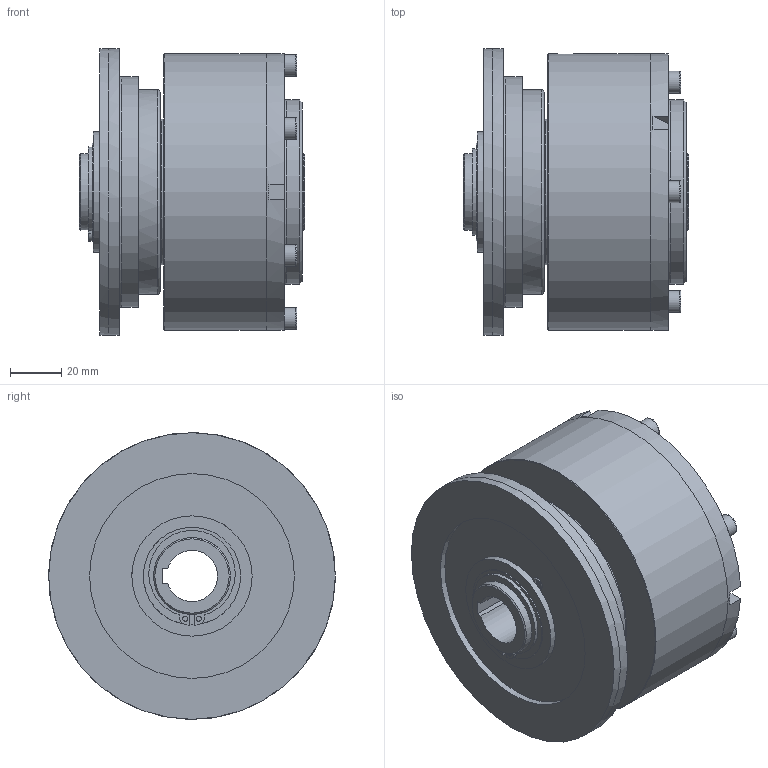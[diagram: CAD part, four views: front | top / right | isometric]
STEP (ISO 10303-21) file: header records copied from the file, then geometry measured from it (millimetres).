
FILE_DESCRIPTION(/* description */ (''),/* implementation_level */ '2;1');
FILE_NAME(/* name */ 'X:\INVENTOR\DISEGNI\03_Friz_Oleod_Pneum_Cil_Stat\03_53 MP-N\03_53_00_01 MP-N00\03_53_00_01 MP-N00@STEP.stp',/* time_stamp */ '2023-02-06T10:00:11+01:00',/* author */ ('alessio'),/* organization */ (''),/* preprocessor_version */ 'ST-DEVELOPER v18.1',/* originating_system */ 'Autodesk Inventor 2021',/* authorisation */ '');
FILE_SCHEMA (('AUTOMOTIVE_DESIGN { 1 0 10303 214 3 1 1 }'));
Products named in the file (1): 03_53_00_01 MP-N00
Bounding box: 88 x 112 x 112 mm (x, y, z)
Volume: 505971.1 mm3; surface area: 164222.3 mm2
Topology: 1 solids, 20 shells, 854 faces, 2513 edges, 1651 vertices
Faces by surface type: cylinder 286, plane 198, bspline 159, torus 113, cone 79, sphere 19
Full cylindrical faces by diameter (mm): 2 x4, 2.5 x2, 4.134 x6, 5 x6, 5.25 x3, 5.5 x6, 6 x1, 7.5 x12, 8.5 x6, 8.566 x1, 28.6 x2, 30 x6, 38 x1, 39 x1, 40.24 x2, 41 x1, 47 x1, 49.5 x1, 50 x2, 51.76 x2, 52 x1, 57 x4, 59.6 x2, 62 x3, 65 x1, 66.5 x2, 70 x2, 70.4 x2, 72 x2, 73 x1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
Entity records: 51168 total; most frequent: CARTESIAN_POINT 28088, ORIENTED_EDGE 4924, DIRECTION 4564, EDGE_CURVE 2462, AXIS2_PLACEMENT_3D 2000, VERTEX_POINT 1651, CIRCLE 1300, EDGE_LOOP 1009
